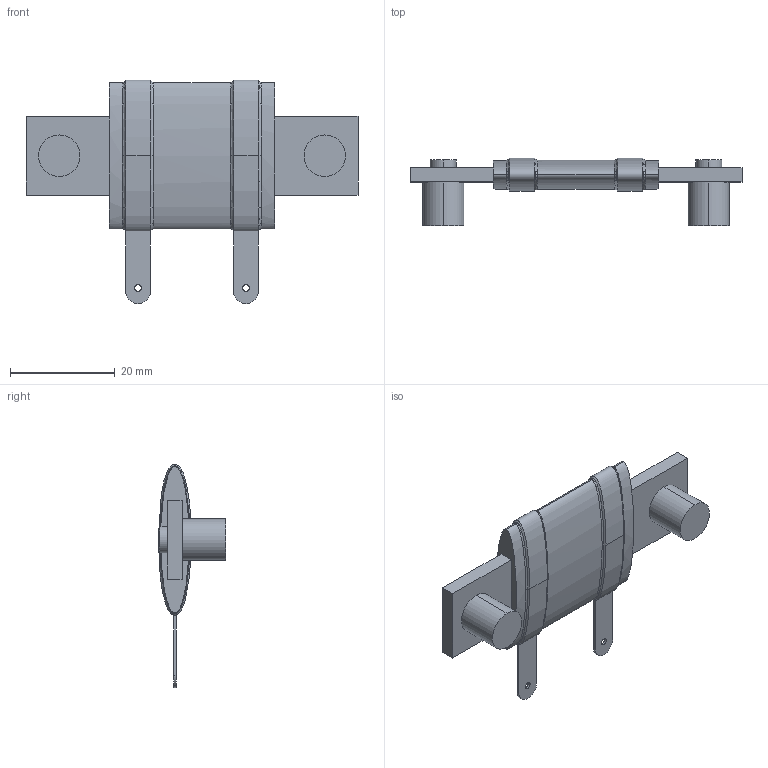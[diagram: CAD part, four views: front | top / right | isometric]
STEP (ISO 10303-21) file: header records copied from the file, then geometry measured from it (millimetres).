
FILE_DESCRIPTION (( 'STEP AP203' ), '1' );
FILE_NAME ('FSOT30-16E.STEP', '2019-11-04T15:53:13', ( '' ), ( '' ), 'SwSTEP 2.0', 'SolidWorks 2019', '' );
FILE_SCHEMA (( 'CONFIG_CONTROL_DESIGN' ));
Length unit declared in the file: millimetre
Products named in the file (1): FSOT30-16E
Bounding box: 63.51 x 12.91 x 42.72 mm (x, y, z)
Volume: 6371.8 mm3; surface area: 4048 mm2
Topology: 1 solids, 1 shells, 120 faces, 316 edges, 204 vertices
Faces by surface type: bspline 80, plane 24, cylinder 16
Entity records: 6381 total; most frequent: CARTESIAN_POINT 3879, ORIENTED_EDGE 632, DIRECTION 328, EDGE_CURVE 316, VERTEX_POINT 204, B_SPLINE_CURVE_WITH_KNOTS 158, AXIS2_PLACEMENT_3D 133, EDGE_LOOP 130
